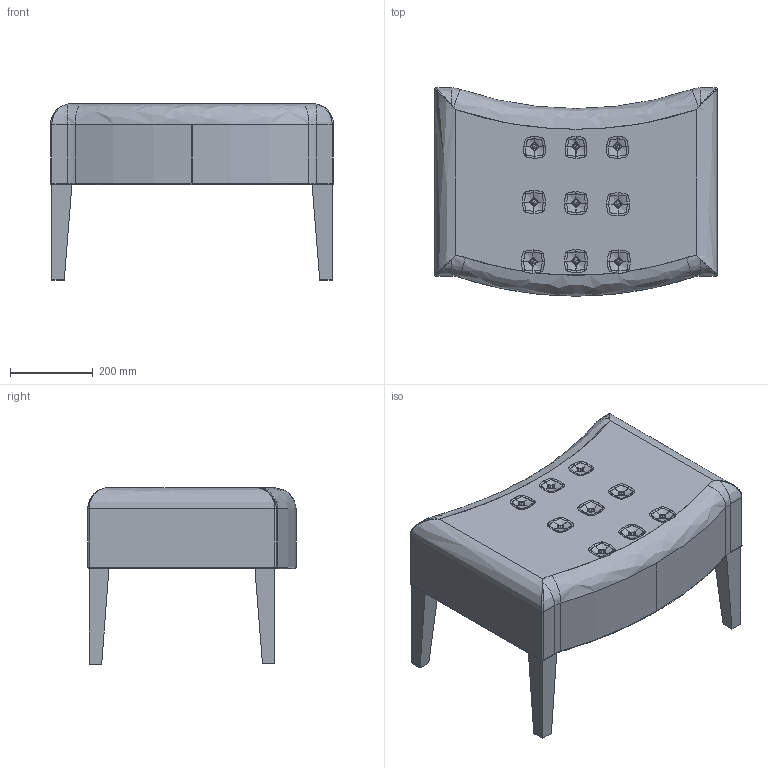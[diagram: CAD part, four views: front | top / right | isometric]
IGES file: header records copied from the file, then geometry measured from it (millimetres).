
Start section: SolidWorks IGES file using analytic representation for surfaces
Global section: file name: C:\Users\Adao\Documents\Trab Adao\Desenho técnico PRODUÇÃO\J M S\HANNA\HANNA (3D)\FOOTSTOOL M-609.IGS; native system: SolidWorks 2012; preprocessor: SolidWorks 2012; author: Adao; date: 121219.141603; units: millimetre
Bounding box: 682 x 502 x 425.6 mm (x, y, z)
Surface area: 1172916.2 mm2 (no closed solid volume)
Topology: 0 solids, 0 shells, 234 faces, 5634 edges, 5608 vertices
Faces by surface type: bspline 188, revolution 46
